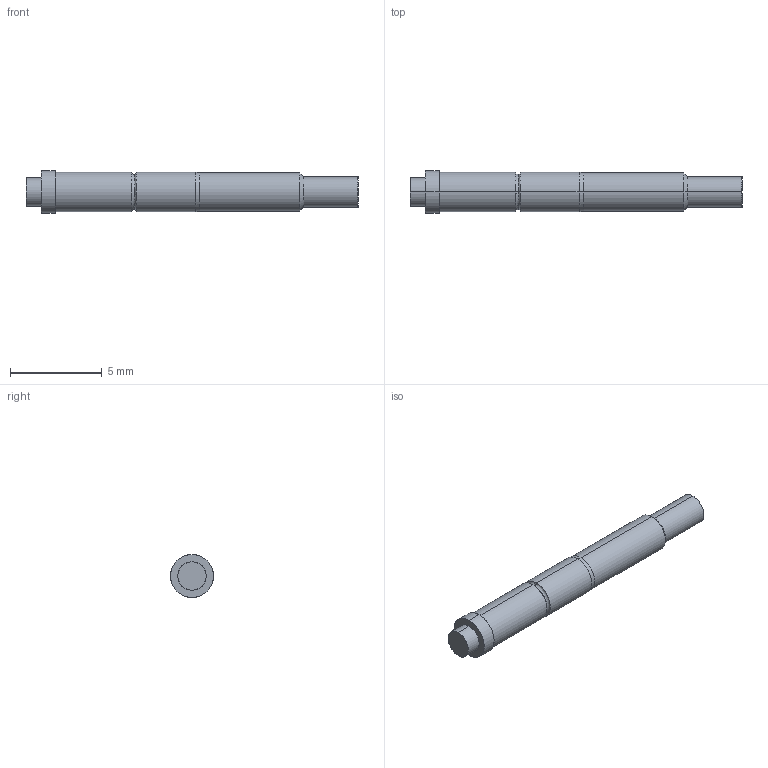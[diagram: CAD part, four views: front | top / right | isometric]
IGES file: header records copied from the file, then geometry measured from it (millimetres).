
Start section: SolidWorks IGES file using analytic representation for surfaces
Global section: file name: O:\PYLON\IGES FILES\G-S\G-S-F REC'D.IGS; native system: SolidWorks 2015; preprocessor: SolidWorks 2015; author: kgolden; date: 171024.094540; units: inch
Bounding box: 18.11 x 2.34 x 2.34 mm (x, y, z)
Surface area: 137.1 mm2 (no closed solid volume)
Topology: 0 solids, 0 shells, 27 faces, 264 edges, 264 vertices
Faces by surface type: revolution 18, bspline 9
